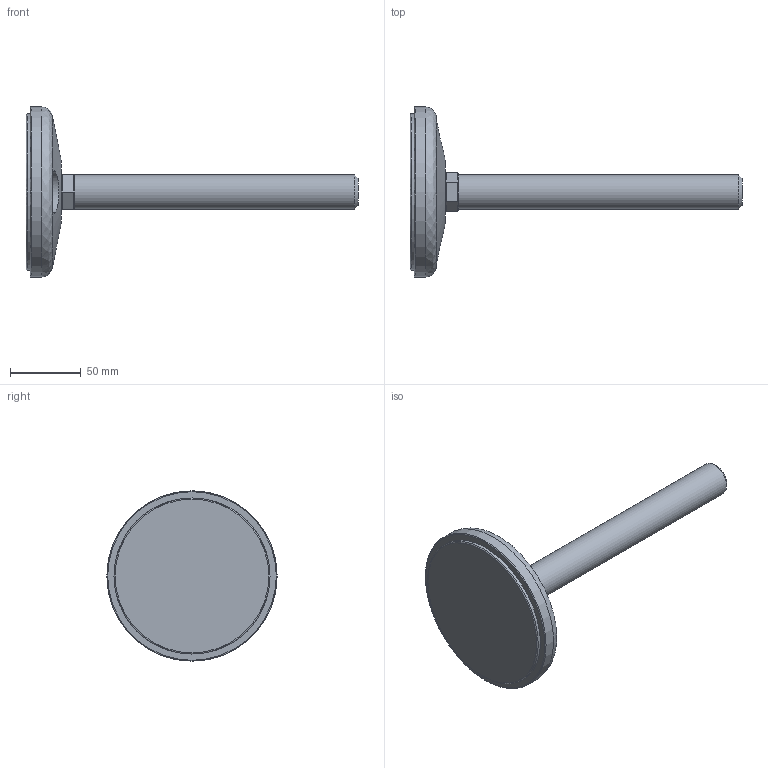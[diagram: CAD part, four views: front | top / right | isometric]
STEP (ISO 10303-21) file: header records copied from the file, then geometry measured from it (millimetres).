
FILE_DESCRIPTION(('STEP AP203'),'2;1');
FILE_NAME('12406-G.stp','2015-11-26T07:12:19',(''),(''),'2008.1.107','THINKDESIGN','');
FILE_SCHEMA(('CONFIG_CONTROL_DESIGN'));
Length unit declared in the file: millimetre
Bounding box: 234 x 120 x 120 mm (x, y, z)
Volume: 319448.8 mm3; surface area: 69811.6 mm2
Topology: 5 solids, 5 shells, 48 faces, 110 edges, 73 vertices
Faces by surface type: plane 19, bspline 19, cylinder 10
Full cylindrical faces by diameter (mm): 12.5 x2, 17.5 x2, 24 x1, 110 x2, 120 x1
Entity records: 2378 total; most frequent: CARTESIAN_POINT 1196, DIRECTION 220, ORIENTED_EDGE 220, EDGE_CURVE 110, AXIS2_PLACEMENT_3D 83, VERTEX_POINT 73, EDGE_LOOP 55, CIRCLE 54
